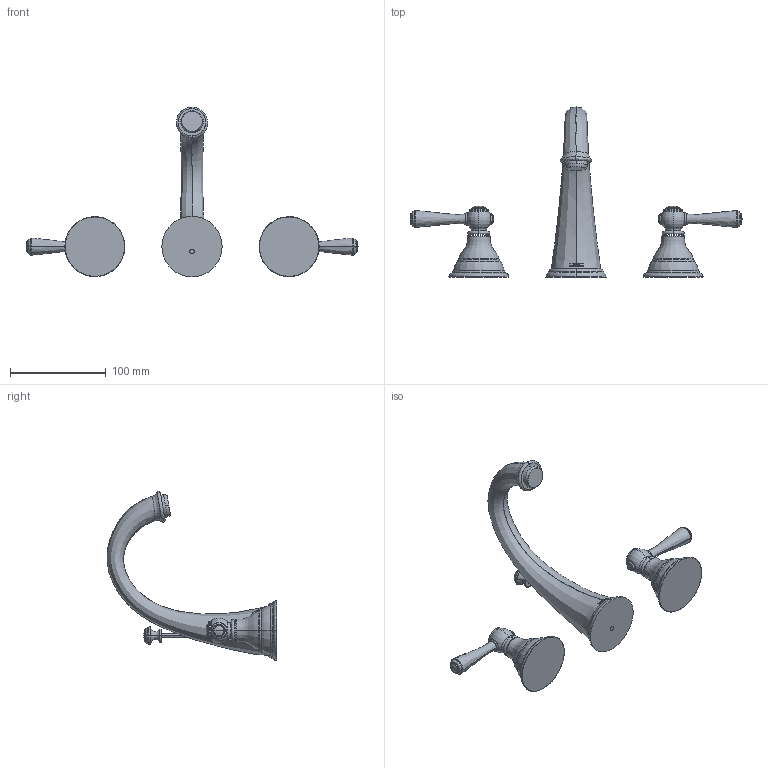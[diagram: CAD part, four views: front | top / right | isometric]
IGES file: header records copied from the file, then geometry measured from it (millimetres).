
Start section:  PTC IGES file: sku_t6125.igs
Global section: file name: sku_t6125.igs; native system: Pro/ENGINEER by Parametric Technology Corporation; preprocessor: 2006460; author: 9dutterb; organization: Unknown; date: 20071207.133455; units: inch
Bounding box: 347.2 x 177.76 x 177.37 mm (x, y, z)
Surface area: 64385.4 mm2 (no closed solid volume)
Topology: 0 solids, 0 shells, 204 faces, 845 edges, 835 vertices
Faces by surface type: revolution 180, bspline 24
